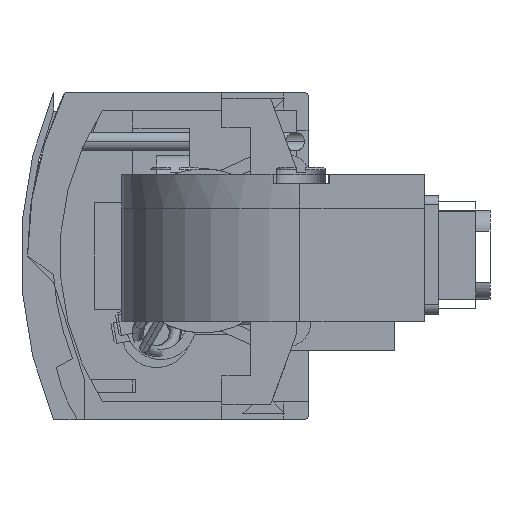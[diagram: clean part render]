
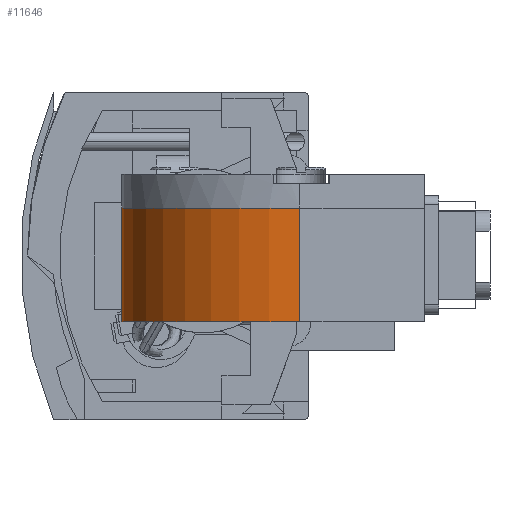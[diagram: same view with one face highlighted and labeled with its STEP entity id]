
A CAD part, front view. The second image highlights one B-rep face of the part: STEP entity #11646.
In plain terms, the highlighted cylindrical face has radius 19.05 mm (diameter 38.1 mm), a partial arc.
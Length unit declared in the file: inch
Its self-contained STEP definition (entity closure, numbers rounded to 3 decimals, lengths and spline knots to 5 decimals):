
#11374=DIRECTION('',(0.,0.,1.));
#11375=VECTOR('',#11374,0.47874);
#11376=CARTESIAN_POINT('',(0.28722,-8.1042,
-0.27677));
#11377=LINE('',#11376,#11375);
#11378=CARTESIAN_POINT('',(1.03722,-8.1042,
0.20197));
#11379=DIRECTION('',(0.,0.,1.));
#11380=DIRECTION('',(-1.,0.,0.));
#11381=AXIS2_PLACEMENT_3D('',#11378,#11379,#11380);
#11383=CARTESIAN_POINT('',(1.03722,-8.1042,
-0.27677));
#11384=DIRECTION('',(0.,0.,-1.));
#11385=DIRECTION('',(0.,-1.,0.));
#11386=AXIS2_PLACEMENT_3D('',#11383,#11384,#11385);
#11388=DIRECTION('',(0.,0.,1.));
#11389=VECTOR('',#11388,0.47874);
#11390=CARTESIAN_POINT('',(1.03722,-8.8542,
-0.27677));
#11391=LINE('',#11390,#11389);
#11404=CARTESIAN_POINT('',(1.03722,-8.8542,
-0.27677));
#11405=CARTESIAN_POINT('',(0.28722,-8.1042,
-0.27677));
#11406=VERTEX_POINT('',#11404);
#11407=VERTEX_POINT('',#11405);
#11426=CARTESIAN_POINT('',(1.03722,-8.8542,
0.20197));
#11428=VERTEX_POINT('',#11426);
#11434=CARTESIAN_POINT('',(0.28722,-8.1042,
0.20197));
#11435=VERTEX_POINT('',#11434);
#11633=CARTESIAN_POINT('',(1.03722,-8.1042,
-0.27677));
#11634=DIRECTION('',(0.,0.,-1.));
#11635=DIRECTION('',(0.,-1.,0.));
#11636=AXIS2_PLACEMENT_3D('',#11633,#11634,#11635);
#11637=CYLINDRICAL_SURFACE('',#11636,0.75);
#11638=ORIENTED_EDGE('',*,*,#11627,.T.);
#11640=ORIENTED_EDGE('',*,*,#11639,.T.);
#11642=ORIENTED_EDGE('',*,*,#11641,.F.);
#11643=ORIENTED_EDGE('',*,*,#11467,.T.);
#11644=EDGE_LOOP('',(#11638,#11640,#11642,#11643));
#11645=FACE_OUTER_BOUND('',#11644,.F.);
#11646=ADVANCED_FACE('',(#11645),#11637,.T.);
#11382=CIRCLE('',#11381,0.75);
#11387=CIRCLE('',#11386,0.75);
#11467=EDGE_CURVE('',#11406,#11407,#11387,.T.);
#11627=EDGE_CURVE('',#11407,#11435,#11377,.T.);
#11639=EDGE_CURVE('',#11435,#11428,#11382,.T.);
#11641=EDGE_CURVE('',#11406,#11428,#11391,.T.);
